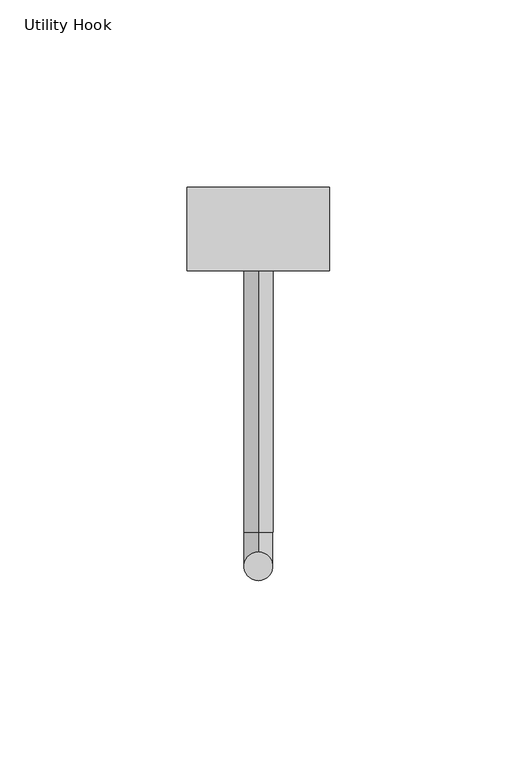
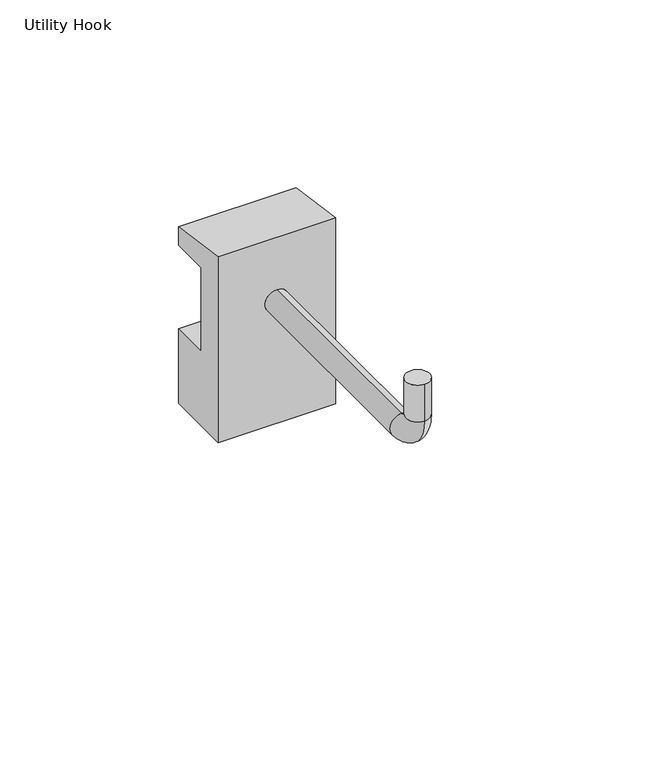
"""IFC4 building model written with IfcOpenShell, lengths in millimetres: furniture geometry, HermanMiller_Carts_CT776_UtilityHook : Utility Hook."""

from ifc_helpers import new_model, si_unit, point, frame, origin, place, context, project, spatial, circle_curve, ellipse_curve, trimmed, source, transform, mapped, element, save
from ifc_brep_helpers import plane_surface, cylinder_surface, revolved_surface, advanced_brep


def utility_hook_d18f2f74(model_context):
    return source(origin(), model_context, "Body", "AdvancedBrep", [
        advanced_brep(
        [(-19.05, -11.1125, 795.02), (-19.05, 11.1125, 791.8450015), (-19.05, 11.1125, 785.4950008), (-19.05, -1.5875004, 785.4950008), (-19.05, -1.5875004, 756.92), (-19.05, 11.1125, 756.92), (-19.05, 11.1125, 731.52), (-19.05, -11.1125, 731.52), (19.05, -11.1125, 795.02), (19.05, -11.1125, 731.52), (19.05, 11.1125, 731.52), (19.05, 11.1125, 756.92), (19.05, -1.5875004, 756.92), (19.05, -1.5875004, 785.4950008), (19.05, 11.1125, 785.4950008), (19.05, 11.1125, 791.8450015), (0.0, -11.1125, 769.4954433), (0.0, -11.1125, 777.1859634), (0.0, -93.9116119, 795.02), (0.0, -86.2210919, 795.02), (0.0, -80.9624974, 769.4954433), (0.0, -80.9624974, 777.1859634), (0.0, -93.9116119, 782.4445579), (0.0, -86.2210919, 782.4445579)],
        [
            (0, 1),
            (1, 2),
            (2, 3),
            (3, 4),
            (4, 5),
            (5, 6),
            (6, 7),
            (7, 0),
            (8, 9),
            (9, 10),
            (10, 11),
            (11, 12),
            (12, 13),
            (13, 14),
            (14, 15),
            (15, 8),
            (0, 8),
            (15, 1),
            (14, 2),
            (13, 3),
            (12, 4),
            (11, 5),
            (10, 6),
            (9, 7),
            (16, 17, circle_curve(frame((0.0, -11.1125, 773.3407033), z_axis=(0.0, 1.0, 0.0), x_axis=(0.0, 0.0, -1.0)), 3.84526)),
            (17, 16, circle_curve(frame((0.0, -11.1125, 773.3407033), z_axis=(0.0, 1.0, 0.0), x_axis=(0.0, 0.0, -1.0)), 3.84526)),
            (18, 19, circle_curve(frame((0.0, -90.0663519, 795.02), z_axis=(0.0, 0.0, 1.0), x_axis=(0.0, -1.0, 0.0)), 3.84526)),
            (19, 18, circle_curve(frame((0.0, -90.0663519, 795.02), z_axis=(0.0, 0.0, 1.0), x_axis=(0.0, -1.0, 0.0)), 3.84526)),
            (16, 20),
            (20, 21, circle_curve(frame((0.0, -80.9624974, 773.3407033), z_axis=(0.0, 1.0, 0.0), x_axis=(0.0, 0.0, -1.0)), 3.84526)),
            (21, 17),
            (21, 20, circle_curve(frame((0.0, -80.9624974, 773.3407033), z_axis=(0.0, 1.0, 0.0), x_axis=(0.0, 0.0, -1.0)), 3.84526)),
            (20, 22, circle_curve(frame((0.0, -80.9624974, 782.4445579), z_axis=(-1.0, 0.0, 0.0), x_axis=(0.0, 0.0, -1.0)), 12.9491146)),
            (22, 23, circle_curve(frame((0.0, -90.0663519, 782.4445579), z_axis=(0.0, 0.0, -1.0), x_axis=(0.0, -1.0, 0.0)), 3.84526)),
            (23, 21, circle_curve(frame((0.0, -80.9624974, 782.4445579), z_axis=(1.0, 0.0, 0.0), x_axis=(0.0, 0.0, -1.0)), 5.2585945)),
            (23, 22, circle_curve(frame((0.0, -90.0663519, 782.4445579), z_axis=(0.0, 0.0, -1.0), x_axis=(0.0, -1.0, 0.0)), 3.84526)),
            (19, 23),
            (22, 18),
        ],
        [
            plane_surface(frame((-19.05, 0.0, 762.0000008), z_axis=(-1.0, 0.0, 0.0), x_axis=(0.0, -1.0, 0.0))),
            plane_surface(frame((19.05, 0.0, 762.0000008), z_axis=(1.0, 0.0, 0.0), x_axis=(0.0, -1.0, 0.0))),
            plane_surface(frame((-19.05, -11.1125, 795.02), z_axis=(0.0, 0.14142129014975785, 0.9899495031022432), x_axis=(1.0, 0.0, 0.0))),
            plane_surface(frame((-19.05, 11.1125, 791.8450015), z_axis=(0.0, 1.0, 0.0), x_axis=(1.0, 0.0, 0.0))),
            plane_surface(frame((-19.05, 11.1125, 785.4950008), z_axis=(0.0, 0.0, -1.0), x_axis=(1.0, 0.0, 0.0))),
            plane_surface(frame((-19.05, -1.5875004, 785.4950008), z_axis=(0.0, 1.0, 0.0), x_axis=(1.0, 0.0, 0.0))),
            plane_surface(frame((-19.05, -1.5875004, 756.92), z_axis=(0.0, 0.0, 1.0), x_axis=(1.0, 0.0, 0.0))),
            plane_surface(frame((-19.05, 11.1125, 756.92), z_axis=(0.0, 1.0, 0.0), x_axis=(1.0, 0.0, 0.0))),
            plane_surface(frame((-19.05, 11.1125, 731.52), z_axis=(0.0, 0.0, -1.0), x_axis=(1.0, 0.0, 0.0))),
            plane_surface(frame((-19.05, -11.1125, 731.52), z_axis=(0.0, -1.0, 0.0), x_axis=(1.0, 0.0, 0.0))),
            plane_surface(frame((0.0, -93.9116119, 795.02), z_axis=(0.0, 0.0, 1.0), x_axis=(1.0, 0.0, 0.0))),
            cylinder_surface(frame((0.0, -11.1125, 773.3407033), z_axis=(0.0, 1.0, 0.0), x_axis=(0.0, 0.0, -1.0)), 3.84526),
            revolved_surface(trimmed(ellipse_curve(frame((0.0, -80.9624974, 773.3407033), z_axis=(0.0, 1.0, 0.0), x_axis=(0.0, 0.0, -1.0)), 3.84526, 3.84526), [point((0.0, -80.9624974, 769.4954433))], [point((0.0, -80.9624974, 777.1859634))], True, "CARTESIAN"), (0.0, -80.9624974, 782.4445579), (-1.0, 0.0, 0.0)),
            revolved_surface(trimmed(ellipse_curve(frame((0.0, -80.9624974, 773.3407033), z_axis=(0.0, 1.0, 0.0), x_axis=(0.0, 0.0, -1.0)), 3.84526, 3.84526), [point((0.0, -80.9624974, 777.1859634))], [point((0.0, -80.9624974, 769.4954433))], True, "CARTESIAN"), (0.0, -80.9624974, 782.4445579), (-1.0, 0.0, 0.0)),
            cylinder_surface(frame((0.0, -90.0663519, 782.4445579), z_axis=(0.0, 0.0, -1.0), x_axis=(0.0, -1.0, 0.0)), 3.84526),
        ],
        [
            (0, [[1, 2, 3, 4, 5, 6, 7, 8]]),
            (1, [[9, 10, 11, 12, 13, 14, 15, 16]]),
            (2, [[-1, 17, -16, 18]]),
            (3, [[-2, -18, -15, 19]]),
            (4, [[-3, -19, -14, 20]]),
            (5, [[-4, -20, -13, 21]]),
            (6, [[-5, -21, -12, 22]]),
            (7, [[-6, -22, -11, 23]]),
            (8, [[-7, -23, -10, 24]]),
            (9, [[-8, -24, -9, -17], [25, 26]]),
            (10, [[27, 28]]),
            (11, [[29, 30, 31, -25]]),
            (11, [[-29, -26, -31, 32]]),
            (12, [[-30, 33, 34, 35]]),
            (13, [[-32, -35, 36, -33]]),
            (14, [[-28, 37, -34, 38]]),
            (14, [[-27, -38, -36, -37]]),
        ],
    ),
    ])


if __name__ == "__main__":
    model = new_model("IFC4")
    model_context = context("Model", 3, world=origin())
    ifc_project = project(units=[si_unit("LENGTHUNIT", "METRE", prefix="MILLI")], contexts=[model_context])
    site = spatial("IfcSite", under=ifc_project)
    building = spatial("IfcBuilding", under=site)
    placement = place(None, origin())
    utility_hook_shape = utility_hook_d18f2f74(model_context)
    element("IfcFurniture", 1, ObjectType="HermanMiller_Carts_CT776_UtilityHook : Utility Hook", at=placement, inside=building, context=model_context, shape_type="MappedRepresentation", body=[
        mapped(utility_hook_shape, transform((0.0, 0.0, 0.0), x_axis=(1.0, 0.0, 0.0), y_axis=(0.0, 1.0, 0.0), z_axis=(0.0, 0.0, 1.0))),
    ])
    save(model, "model.ifc")
